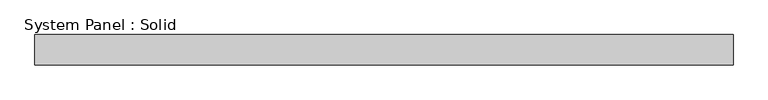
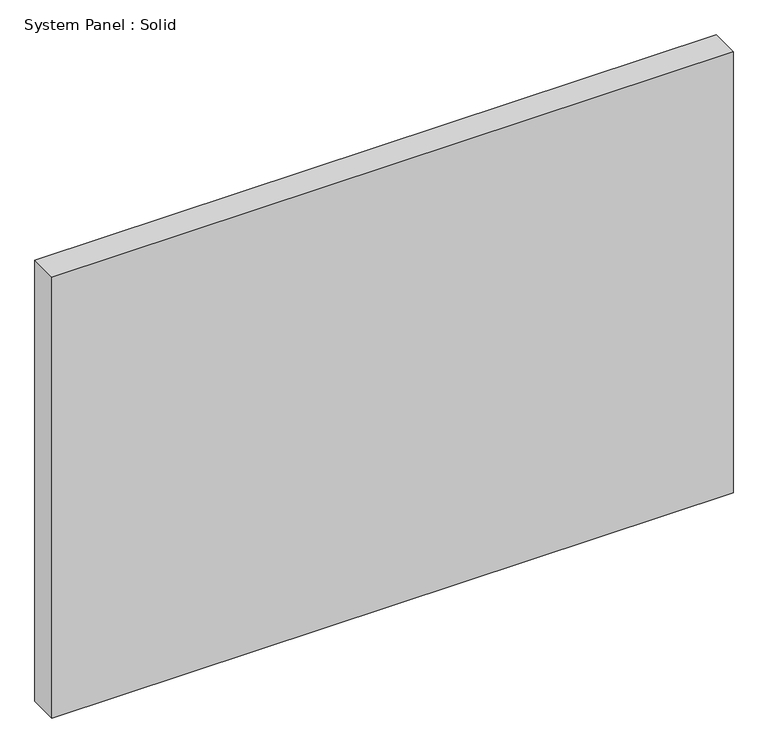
"""IFC4 building model written with IfcOpenShell, lengths in millimetres: plate geometry, System Panel : Solid."""

from ifc_helpers import new_model, si_unit, origin, origin_with_axes, place, context, project, spatial, polyline, outline, extrude, source, transform, mapped, element, save


def system_panel_solid_c6db35ca(model_context):
    return source(origin(), model_context, "Body", "SweptSolid", [
        extrude(outline(polyline([(733.425, -19.05), (-733.425, -19.05), (-733.425, 44.45), (733.425, 44.45), (733.425, -19.05)])), origin_with_axes(), (0.0, 0.0, 1.0), 1003.3),
    ])


if __name__ == "__main__":
    model = new_model("IFC4")
    model_context = context("Model", 3, world=origin())
    ifc_project = project(units=[si_unit("LENGTHUNIT", "METRE", prefix="MILLI")], contexts=[model_context])
    site = spatial("IfcSite", under=ifc_project)
    building = spatial("IfcBuilding", under=site)
    placement = place(None, origin())
    system_panel_solid_shape = system_panel_solid_c6db35ca(model_context)
    element("IfcPlate", 1, ObjectType="System Panel : Solid", at=placement, inside=building, context=model_context, shape_type="MappedRepresentation", body=[
        mapped(system_panel_solid_shape, transform((0.0, 0.0, 0.0), x_axis=(1.0, 0.0, 0.0), y_axis=(0.0, 1.0, 0.0), z_axis=(0.0, 0.0, 1.0))),
    ])
    save(model, "model.ifc")
